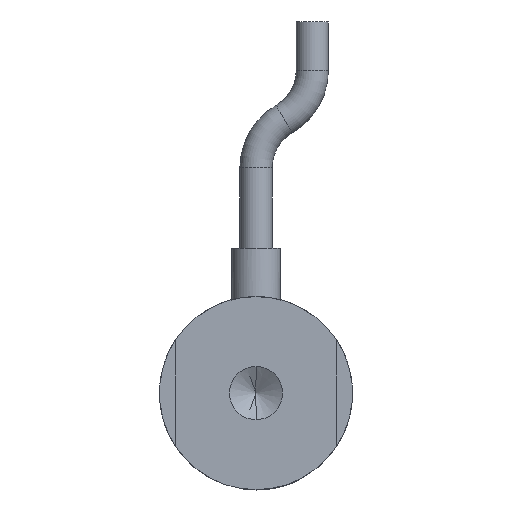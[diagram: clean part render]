
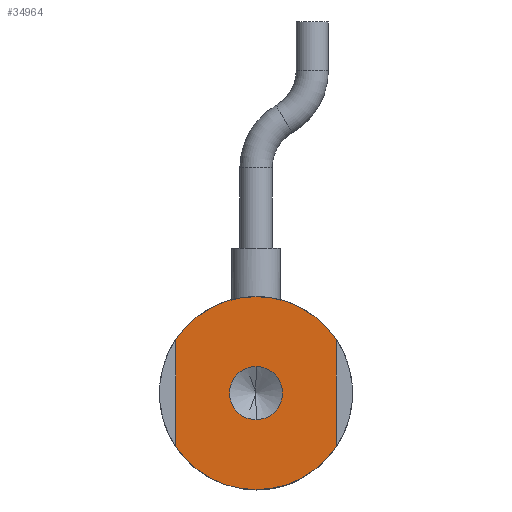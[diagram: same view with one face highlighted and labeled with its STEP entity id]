
A CAD part, front view. The second image highlights one B-rep face of the part: STEP entity #34964.
In plain terms, the highlighted planar face has unit normal (0, -1, 0).
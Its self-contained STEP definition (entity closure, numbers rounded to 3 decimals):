
#313 = CIRCLE ( 'NONE', #31997, 6. ) ;
#1277 = VERTEX_POINT ( 'NONE', #28414 ) ;
#1380 = EDGE_CURVE ( 'NONE', #36413, #1277, #12229, .T. ) ;
#1756 = DIRECTION ( 'NONE',  ( 0., 0., 1. ) ) ;
#2765 = CARTESIAN_POINT ( 'NONE',  ( 0., 0., 1.65 ) ) ;
#2810 = DIRECTION ( 'NONE',  ( 0., 0., 1. ) ) ;
#3281 = CARTESIAN_POINT ( 'NONE',  ( 0., 0., 0. ) ) ;
#4066 = DIRECTION ( 'NONE',  ( 0., -1., 0. ) ) ;
#4884 = AXIS2_PLACEMENT_3D ( 'NONE', #43301, #23120, #2810 ) ;
#4888 = VERTEX_POINT ( 'NONE', #43768 ) ;
#5941 = CARTESIAN_POINT ( 'NONE',  ( 0., 0., -1.65 ) ) ;
#6749 = DIRECTION ( 'NONE',  ( 0., 0., 1. ) ) ;
#7065 = VERTEX_POINT ( 'NONE', #24089 ) ;
#8571 = CARTESIAN_POINT ( 'NONE',  ( -5., 0., -3.317 ) ) ;
#8992 = DIRECTION ( 'NONE',  ( 0., 0., -1. ) ) ;
#9722 = CARTESIAN_POINT ( 'NONE',  ( 5., 0., 0. ) ) ;
#11516 = VERTEX_POINT ( 'NONE', #27741 ) ;
#11850 = CARTESIAN_POINT ( 'NONE',  ( 0., 0., 0. ) ) ;
#12144 = AXIS2_PLACEMENT_3D ( 'NONE', #3281, #26999, #6749 ) ;
#12229 = LINE ( 'NONE', #30827, #12236 ) ;
#12236 = VECTOR ( 'NONE', #30910, 1000. ) ;
#12701 = DIRECTION ( 'NONE',  ( 0., 1., 0. ) ) ;
#13180 = DIRECTION ( 'NONE',  ( 0., 1., 0. ) ) ;
#14891 = VERTEX_POINT ( 'NONE', #2765 ) ;
#16390 = EDGE_CURVE ( 'NONE', #11516, #4888, #30220, .T. ) ;
#16849 = EDGE_CURVE ( 'NONE', #19019, #14891, #23455, .T. ) ;
#18675 = CIRCLE ( 'NONE', #28035, 1.65 ) ;
#19019 = VERTEX_POINT ( 'NONE', #5941 ) ;
#20894 = EDGE_CURVE ( 'NONE', #1277, #26141, #23077, .T. ) ;
#21953 = PLANE ( 'NONE',  #42600 ) ;
#22094 = DIRECTION ( 'NONE',  ( 0., 1., 0. ) ) ;
#22725 = FACE_BOUND ( 'NONE', #38839, .T. ) ;
#23077 = CIRCLE ( 'NONE', #4884, 6. ) ;
#23120 = DIRECTION ( 'NONE',  ( 0., 1., 0. ) ) ;
#23218 = CIRCLE ( 'NONE', #39576, 6. ) ;
#23455 = CIRCLE ( 'NONE', #26988, 1.65 ) ;
#23746 = EDGE_CURVE ( 'NONE', #4888, #7065, #313, .T. ) ;
#24089 = CARTESIAN_POINT ( 'NONE',  ( 0., 0., -6. ) ) ;
#24280 = CARTESIAN_POINT ( 'NONE',  ( 0., 0., 6. ) ) ;
#24367 = CARTESIAN_POINT ( 'NONE',  ( 0., 0., 0. ) ) ;
#25293 = FACE_OUTER_BOUND ( 'NONE', #35828, .T. ) ;
#26141 = VERTEX_POINT ( 'NONE', #24280 ) ;
#26496 = EDGE_CURVE ( 'NONE', #26141, #11516, #29676, .T. ) ;
#26988 = AXIS2_PLACEMENT_3D ( 'NONE', #37249, #37214, #37154 ) ;
#26999 = DIRECTION ( 'NONE',  ( 0., 1., 0. ) ) ;
#27741 = CARTESIAN_POINT ( 'NONE',  ( 5., 0., 3.317 ) ) ;
#27754 = DIRECTION ( 'NONE',  ( 0., 0., -1. ) ) ;
#28035 = AXIS2_PLACEMENT_3D ( 'NONE', #24367, #4066, #27754 ) ;
#28414 = CARTESIAN_POINT ( 'NONE',  ( -5., 0., 3.317 ) ) ;
#29676 = CIRCLE ( 'NONE', #12144, 6. ) ;
#30220 = LINE ( 'NONE', #9722, #30903 ) ;
#30827 = CARTESIAN_POINT ( 'NONE',  ( -5., 0., 0. ) ) ;
#30903 = VECTOR ( 'NONE', #8992, 1000. ) ;
#30910 = DIRECTION ( 'NONE',  ( 0., 0., 1. ) ) ;
#31997 = AXIS2_PLACEMENT_3D ( 'NONE', #32788, #12701, #36203 ) ;
#32788 = CARTESIAN_POINT ( 'NONE',  ( 0., 0., 0. ) ) ;
#33269 = CARTESIAN_POINT ( 'NONE',  ( 0., 0., 0. ) ) ;
#34964 = ADVANCED_FACE ( 'NONE', ( #22725, #25293 ), #21953, .F. ) ;
#35828 = EDGE_LOOP ( 'NONE', ( #37988, #38076, #43238, #38655, #39122, #43759 ) ) ;
#36203 = DIRECTION ( 'NONE',  ( 0., 0., 1. ) ) ;
#36413 = VERTEX_POINT ( 'NONE', #8571 ) ;
#36670 = DIRECTION ( 'NONE',  ( 0., 0., 1. ) ) ;
#37045 = ORIENTED_EDGE ( 'NONE', *, *, #16849, .F. ) ;
#37154 = DIRECTION ( 'NONE',  ( 0., 0., -1. ) ) ;
#37214 = DIRECTION ( 'NONE',  ( 0., -1., 0. ) ) ;
#37249 = CARTESIAN_POINT ( 'NONE',  ( 0., 0., 0. ) ) ;
#37399 = ORIENTED_EDGE ( 'NONE', *, *, #40658, .F. ) ;
#37988 = ORIENTED_EDGE ( 'NONE', *, *, #1380, .F. ) ;
#38076 = ORIENTED_EDGE ( 'NONE', *, *, #39230, .F. ) ;
#38655 = ORIENTED_EDGE ( 'NONE', *, *, #16390, .F. ) ;
#38839 = EDGE_LOOP ( 'NONE', ( #37045, #37399 ) ) ;
#39122 = ORIENTED_EDGE ( 'NONE', *, *, #26496, .F. ) ;
#39230 = EDGE_CURVE ( 'NONE', #7065, #36413, #23218, .T. ) ;
#39576 = AXIS2_PLACEMENT_3D ( 'NONE', #33269, #13180, #36670 ) ;
#40658 = EDGE_CURVE ( 'NONE', #14891, #19019, #18675, .T. ) ;
#42600 = AXIS2_PLACEMENT_3D ( 'NONE', #11850, #22094, #1756 ) ;
#43238 = ORIENTED_EDGE ( 'NONE', *, *, #23746, .F. ) ;
#43301 = CARTESIAN_POINT ( 'NONE',  ( 0., 0., 0. ) ) ;
#43759 = ORIENTED_EDGE ( 'NONE', *, *, #20894, .F. ) ;
#43768 = CARTESIAN_POINT ( 'NONE',  ( 5., 0., -3.317 ) ) ;
